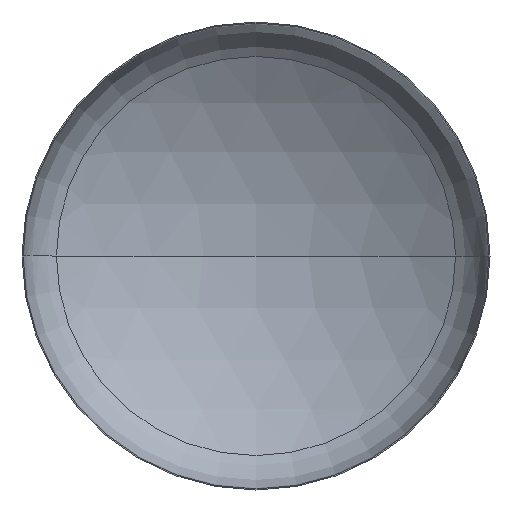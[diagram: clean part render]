
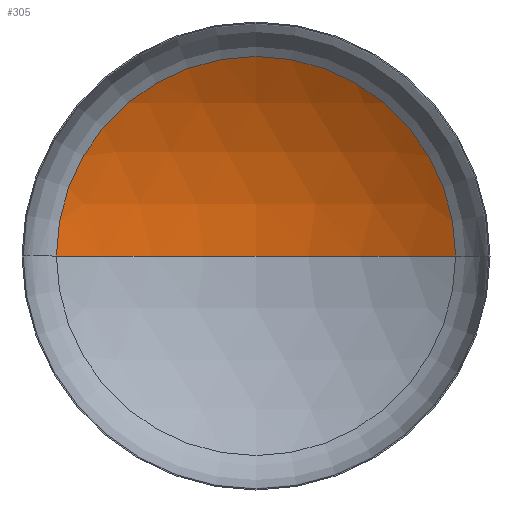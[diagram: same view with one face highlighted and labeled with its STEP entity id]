
A CAD part, front view. The second image highlights one B-rep face of the part: STEP entity #305.
In plain terms, the highlighted spherical face has radius 1440 mm.
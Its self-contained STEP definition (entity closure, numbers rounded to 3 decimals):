
#1 = ORIENTED_EDGE ( 'NONE', *, *, #175, .T. ) ;
#11 = VERTEX_POINT ( 'NONE', #198 ) ;
#32 = VERTEX_POINT ( 'NONE', #37 ) ;
#37 = CARTESIAN_POINT ( 'NONE',  ( -767.588, 252.674, 0. ) ) ;
#46 = ORIENTED_EDGE ( 'NONE', *, *, #178, .T. ) ;
#50 = AXIS2_PLACEMENT_3D ( 'NONE', #186, #282, #241 ) ;
#59 = AXIS2_PLACEMENT_3D ( 'NONE', #345, #211, #368 ) ;
#60 = ORIENTED_EDGE ( 'NONE', *, *, #191, .F. ) ;
#64 = AXIS2_PLACEMENT_3D ( 'NONE', #319, #181, #344 ) ;
#65 = AXIS2_PLACEMENT_3D ( 'NONE', #236, #393, #256 ) ;
#67 = VERTEX_POINT ( 'NONE', #388 ) ;
#89 = EDGE_LOOP ( 'NONE', ( #60, #46, #1 ) ) ;
#175 = EDGE_CURVE ( 'NONE', #11, #32, #176, .T. ) ;
#176 = CIRCLE ( 'NONE', #64, 767.588 ) ;
#178 = EDGE_CURVE ( 'NONE', #67, #11, #361, .T. ) ;
#181 = DIRECTION ( 'NONE',  ( 0., -1., 0. ) ) ;
#186 = CARTESIAN_POINT ( 'NONE',  ( 0., -965.69, 0. ) ) ;
#191 = EDGE_CURVE ( 'NONE', #67, #32, #242, .T. ) ;
#198 = CARTESIAN_POINT ( 'NONE',  ( 767.588, 252.674, 0. ) ) ;
#211 = DIRECTION ( 'NONE',  ( 0., 0., 1. ) ) ;
#236 = CARTESIAN_POINT ( 'NONE',  ( 0., -965.69, 0. ) ) ;
#241 = DIRECTION ( 'NONE',  ( -1., 0., 0. ) ) ;
#242 = CIRCLE ( 'NONE', #59, 1440. ) ;
#256 = DIRECTION ( 'NONE',  ( -1., 0., 0. ) ) ;
#282 = DIRECTION ( 'NONE',  ( 0., 0., -1. ) ) ;
#305 = ADVANCED_FACE ( 'NONE', ( #338 ), #399, .F. ) ;
#319 = CARTESIAN_POINT ( 'NONE',  ( 0., 252.674, 0. ) ) ;
#338 = FACE_OUTER_BOUND ( 'NONE', #89, .T. ) ;
#344 = DIRECTION ( 'NONE',  ( 1., 0., 0. ) ) ;
#345 = CARTESIAN_POINT ( 'NONE',  ( 0., -965.69, 0. ) ) ;
#361 = CIRCLE ( 'NONE', #65, 1440. ) ;
#368 = DIRECTION ( 'NONE',  ( 1., 0., 0. ) ) ;
#388 = CARTESIAN_POINT ( 'NONE',  ( 0., 474.31, 0. ) ) ;
#393 = DIRECTION ( 'NONE',  ( 0., 0., -1. ) ) ;
#399 = SPHERICAL_SURFACE ( 'NONE', #50, 1440. ) ;
